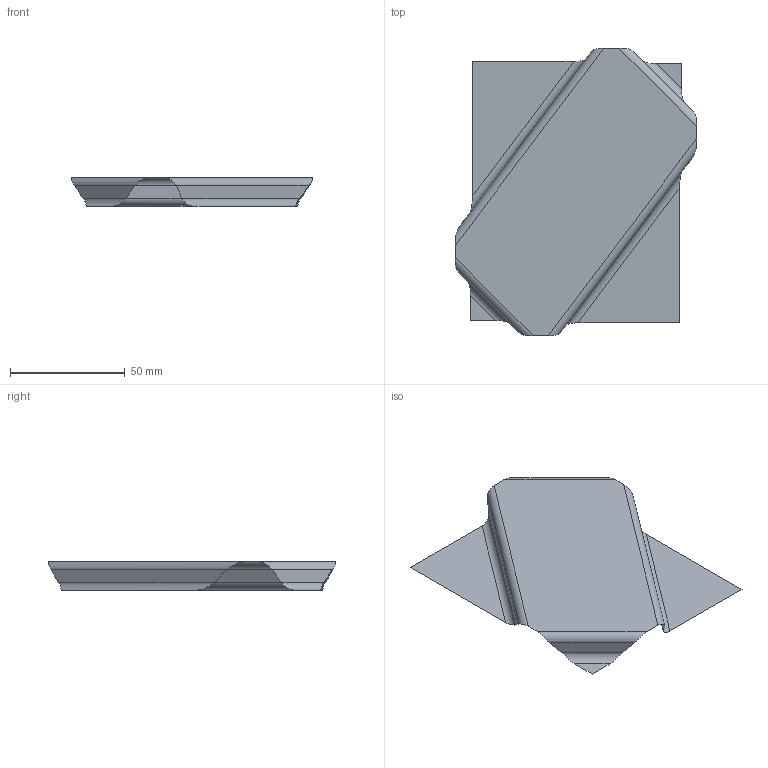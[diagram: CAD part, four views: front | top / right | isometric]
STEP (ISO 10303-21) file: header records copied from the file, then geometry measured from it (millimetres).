
FILE_DESCRIPTION(('CATIA V5 STEP Exchange'),'2;1');
FILE_NAME('C:\_Andres\UNIVERSIDAD\IQS\ASIGNATURAS\DAO\EXF\EXF-15161c\1original\Massaneda_Tuneu_Ej03-chapa_v15.stp','2016-03-04T16:55:57+00:00',('none'),('none'),'CATIA Version 5 Release 20 SP 1 (IN-10)','CATIA V5 STEP AP203','none');
FILE_SCHEMA(('CONFIG_CONTROL_DESIGN'));
Length unit declared in the file: millimetre
Products named in the file (1): Massaneda_Tuneu_Ej03-chapa_v15
Bounding box: 105.01 x 125.01 x 12.29 mm (x, y, z)
Surface area: 13167.6 mm2 (no closed solid volume)
Topology: 0 solids, 1 shells, 17 faces, 52 edges, 36 vertices
Faces by surface type: plane 9, cylinder 8
Entity records: 627 total; most frequent: CARTESIAN_POINT 198, ORIENTED_EDGE 68, DIRECTION 61, EDGE_CURVE 52, VERTEX_POINT 36, B_SPLINE_CURVE_WITH_KNOTS 27, VECTOR 25, LINE 25
